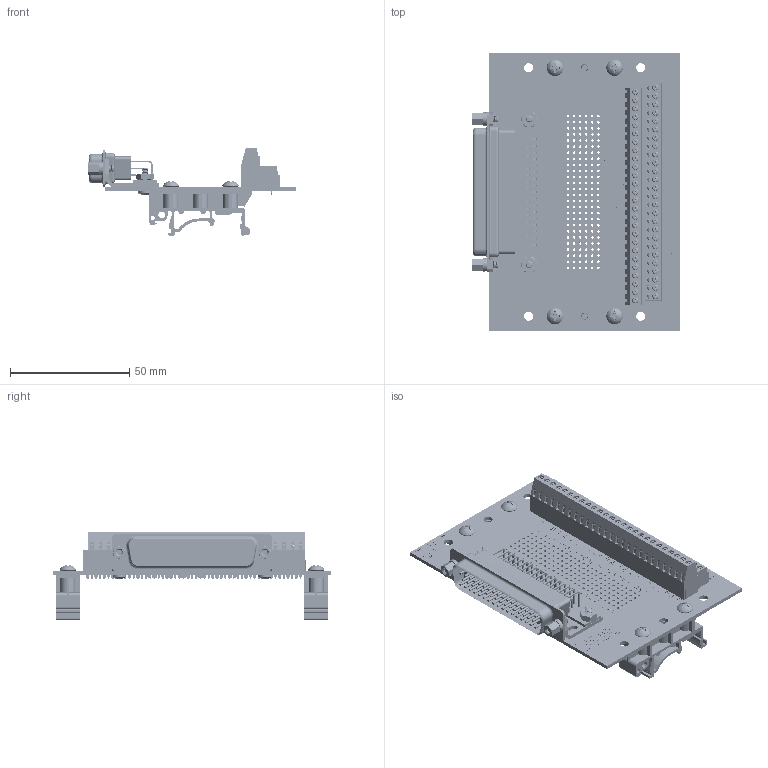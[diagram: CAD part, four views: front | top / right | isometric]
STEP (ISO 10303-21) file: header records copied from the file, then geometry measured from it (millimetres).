
FILE_DESCRIPTION (( 'STEP AP214' ), '1' );
FILE_NAME ('brkdd50m-r-din.step', '2017-07-10T17:21:01', ( '' ), ( '' ), 'SwSTEP 2.0', 'SolidWorks 2017', '' );
FILE_SCHEMA (( 'AUTOMOTIVE_DESIGN' ));
Length unit declared in the file: millimetre
Products named in the file (9): SCSMPP-6-0.375-BULK_90184A127; term4; brkdd50m-r-din; dinm01; SCMAPP-4-A-0.375-BULK_90272A108; BRKDD50M; term6; db50m-ra; SN-4-40-A-BULK_91841A005
Assembly tree (21 placements, depth 2):
  brkdd50m-r-din
    BRKDD50M
    db50m-ra
    SN-4-40-A-BULK_91841A005  x2
    SCMAPP-4-A-0.375-BULK_90272A108  x2
    dinm01  x2
    SCSMPP-6-0.375-BULK_90184A127  x4
    term4
    term6  x8
Bounding box: 87.33 x 116.84 x 36.78 mm (x, y, z)
Volume: 41288.6 mm3; surface area: 71499 mm2
Topology: 177 solids, 177 shells, 19288 faces, 50975 edges, 32700 vertices
Faces by surface type: plane 11190, cylinder 4408, bspline 2388, torus 692, cone 598, sphere 12
Entity records: 450790 total; most frequent: CARTESIAN_POINT 127482, ORIENTED_EDGE 57466, DIRECTION 44293, EDGE_CURVE 28733, VECTOR 20883, LINE 20883, VERTEX_POINT 18889, AXIS2_PLACEMENT_3D 11705
